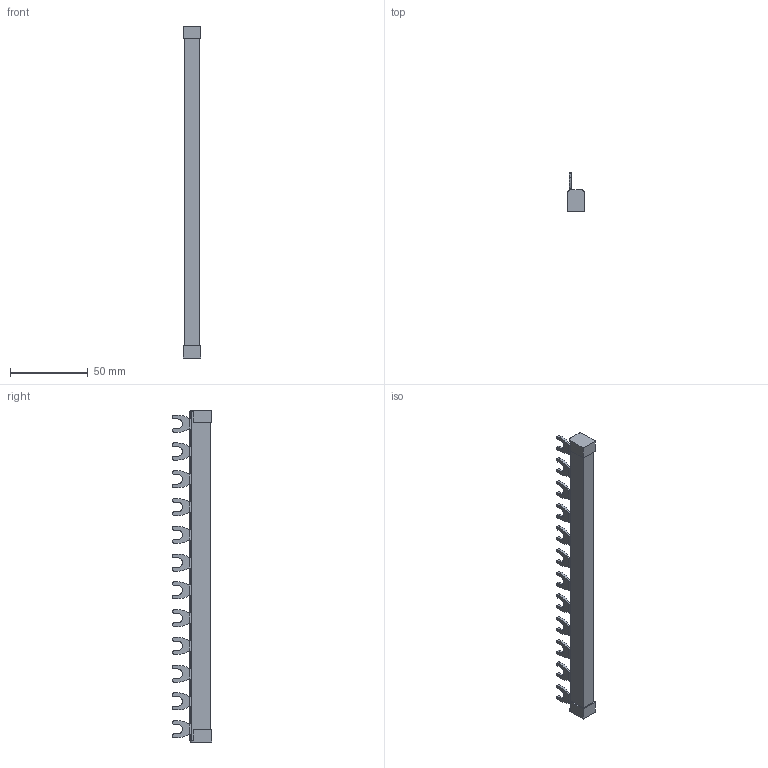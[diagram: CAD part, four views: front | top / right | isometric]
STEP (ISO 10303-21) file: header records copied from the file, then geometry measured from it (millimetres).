
FILE_DESCRIPTION((''),'2;1');
FILE_NAME('SB109083_3D-SIMPLIFIED_ASM','2012-04-03T',('Nyco'),(''),'PRO/ENGINEER BY PARAMETRIC TECHNOLOGY CORPORATION, 2006170','PRO/ENGINEER BY PARAMETRIC TECHNOLOGY CORPORATION, 2006170','');
FILE_SCHEMA(('CONFIG_CONTROL_DESIGN'));
Length unit declared in the file: millimetre
Products named in the file (3): COQUE; SB109099_3D-SIMPLIFIED; SB109083_3D-SIMPLIFIED_ASM
Assembly tree (3 placements, depth 2):
  SB109083_3D-SIMPLIFIED_ASM
    COQUE
    SB109099_3D-SIMPLIFIED  x2
Bounding box: 11 x 25.3 x 214 mm (x, y, z)
Volume: 26322.5 mm3; surface area: 13908.6 mm2
Topology: 3 solids, 3 shells, 205 faces, 597 edges, 398 vertices
Faces by surface type: plane 126, cylinder 79
Entity records: 6489 total; most frequent: DIRECTION 1133, CARTESIAN_POINT 1132, ORIENTED_EDGE 1122, EDGE_CURVE 561, VECTOR 383, LINE 383, AXIS2_PLACEMENT_3D 375, VERTEX_POINT 374
